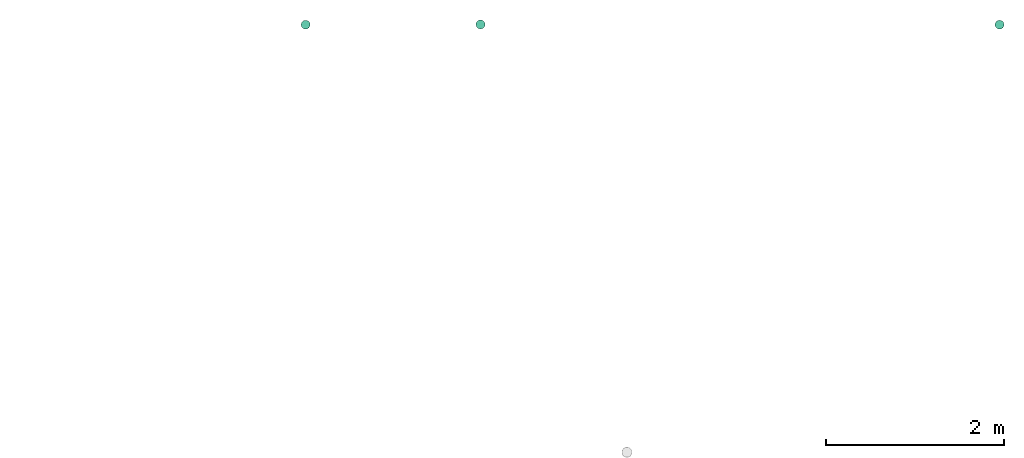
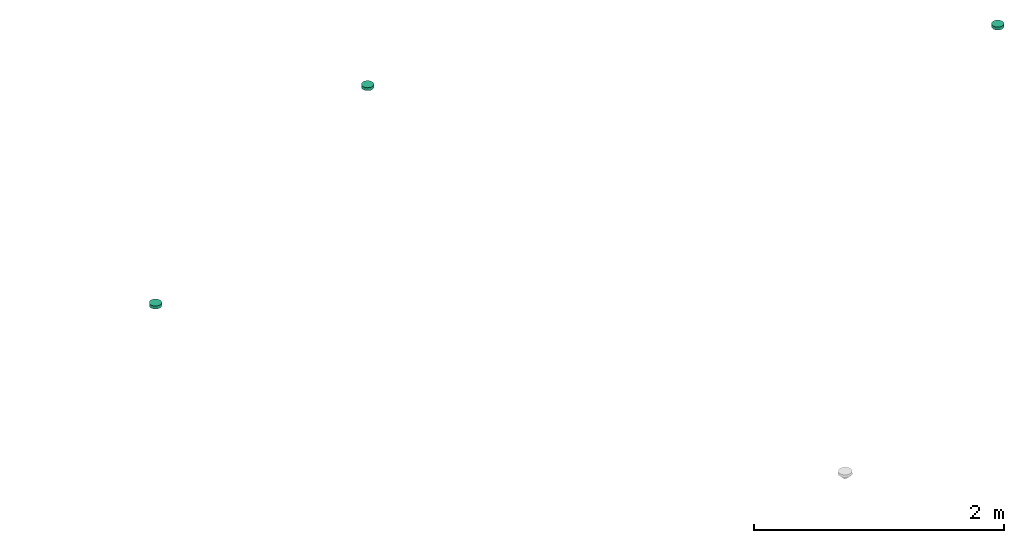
# One storey, part 1 of 4: 3 distribution control elements.
"""IFC2X3 building model written with IfcOpenShell, lengths in millimetres."""

from ifc_helpers import new_model, entity, si_unit, converted_unit, derived_unit, direction, frame, origin_with_axes, place, context, subcontext, project, spatial, open_shell, surface_model, source, transform, mapped, type_object, element, save


model = new_model("IFC2X3")

# Units and contexts
model_context = context("Model", 3, precision=0.01, world=frame((0.0, 4.29681676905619e-09, 0.0)), true_north=direction((4.01073788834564e-13, 1.0)))
plan_context = context("Plan", 3, precision=0.01, world=frame((0.0, 4.29681676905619e-09, 0.0)), true_north=direction((4.01073788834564e-13, 1.0)))
body_context = subcontext(model_context, "Body", "Model", "MODEL_VIEW")
ifc_project = project(units=[converted_unit("PLANEANGLEUNIT", "DEGREE", entity("IfcPositiveLengthMeasure", 0.0174532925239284), si_unit("PLANEANGLEUNIT", "RADIAN"), dimensions=[0, 0, 0, 0, 0, 0, 0]), si_unit("AREAUNIT", "SQUARE_METRE"), si_unit("LENGTHUNIT", "METRE", prefix="MILLI"), si_unit("MASSUNIT", "GRAM", prefix="KILO"), si_unit("POWERUNIT", "WATT"), si_unit("PRESSUREUNIT", "PASCAL", prefix="KILO"), si_unit("FORCEUNIT", "NEWTON", prefix="KILO"), si_unit("ELECTRICVOLTAGEUNIT", "VOLT"), si_unit("ELECTRICCURRENTUNIT", "AMPERE"), si_unit("THERMODYNAMICTEMPERATUREUNIT", "DEGREE_CELSIUS"), si_unit("TIMEUNIT", "SECOND"), si_unit("VOLUMEUNIT", "CUBIC_METRE"), derived_unit("LINEARVELOCITYUNIT", [(si_unit("LENGTHUNIT", "METRE"), 1), (si_unit("TIMEUNIT", "SECOND"), -1)]), derived_unit("VOLUMETRICFLOWRATEUNIT", [(si_unit("VOLUMEUNIT", "CUBIC_METRE"), 1), (si_unit("TIMEUNIT", "SECOND"), -1)]), derived_unit("THERMALTRANSMITTANCEUNIT", [(si_unit("POWERUNIT", "WATT"), 1), (si_unit("THERMODYNAMICTEMPERATUREUNIT", "KELVIN"), -1), (si_unit("AREAUNIT", "SQUARE_METRE"), -1)]), derived_unit("SOUNDPRESSUREUNIT", [(si_unit("PRESSUREUNIT", "PASCAL"), 1)])], contexts=[model_context, plan_context])

# Site, building, storey
site_placement = place(None, frame((0.0, -4.29681676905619e-09, 0.0), z_axis=(0.0, 0.0, 1.0), x_axis=(1.0, 0.0, 0.0)))
site = spatial("IfcSite", under=ifc_project, at=site_placement, Name="ENGM", CompositionType="ELEMENT")
building_placement = place(site_placement, frame((0.0, 4.29681676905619e-09, 0.0), z_axis=(0.0, 0.0, 1.0), x_axis=(1.0, 0.0, 0.0)))
building = spatial("IfcBuilding", under=site, at=building_placement, Name="TS", CompositionType="ELEMENT")
storey_placement = place(building_placement, frame((0.0, 0.0, 210900.0), z_axis=(0.0, 0.0, 1.0), x_axis=(1.0, 0.0, 0.0)))
storey = spatial("IfcBuildingStorey", under=building, at=storey_placement, Name="Nivå F", CompositionType="ELEMENT", Elevation=210900.0)

# Distribution control elements
alarm_type = type_object("IfcAlarmType", Name="Standard", PredefinedType="NOTDEFINED")
shared_shape = source(origin_with_axes(), body_context, "Body", "SurfaceModel", [
    surface_model("IfcShellBasedSurfaceModel", [(-25.0, 43.30127, -28.9), (-35.35534, 35.35534, -28.9), (-18.0, 31.17691, -28.9), (-25.45584, 25.45584, -28.9), (-9.31749, 34.77333, -28.9), (-12.94095, 48.29629, -28.9), (0.0, 36.0, -28.9), (0.0, 50.0, -28.9), (-34.77333, 9.31749, -28.9), (-43.30127, 25.0, -28.9), (-48.29629, 12.94095, -28.9), (-36.0, 0.0, -28.9), (-50.0, 0.0, -28.9), (-31.17691, 18.0, -28.9), (9.31749, 34.77333, -28.9), (12.94095, 48.29629, -28.9), (18.0, 31.17691, -28.9), (35.35534, 35.35534, -28.9), (25.0, 43.30127, -28.9), (25.45584, 25.45584, -28.9), (31.17691, 18.0, -28.9), (34.77333, 9.31749, -28.9), (43.30127, 25.0, -28.9), (48.29629, 12.94095, -28.9), (36.0, 0.0, -28.9), (50.0, 0.0, -28.9), (-34.77333, -9.31749, -28.9), (-48.29629, -12.94095, -28.9), (-31.17691, -18.0, -28.9), (-43.30127, -25.0, -28.9), (-25.45584, -25.45584, -28.9), (-35.35534, -35.35534, -28.9), (-18.0, -31.17691, -28.9), (-25.0, -43.30127, -28.9), (-9.31749, -34.77333, -28.9), (-12.94095, -48.29629, -28.9), (0.0, -36.0, -28.9), (0.0, -50.0, -28.9), (43.30127, -25.0, -28.9), (31.17691, -18.0, -28.9), (35.35534, -35.35534, -28.9), (34.77333, -9.31749, -28.9), (48.29629, -12.94095, -28.9), (25.45584, -25.45584, -28.9), (9.31749, -34.77333, -28.9), (12.94095, -48.29629, -28.9), (18.0, -31.17691, -28.9), (25.0, -43.30127, -28.9), (-25.0, -43.30127, -29.1), (-35.35534, -35.35534, -29.1), (-18.0, -31.17691, -29.1), (-25.45584, -25.45584, -29.1), (-9.31749, -34.77333, -29.1), (-12.94095, -48.29629, -29.1), (0.0, -36.0, -29.1), (0.0, -50.0, -29.1), (-34.77333, -9.31749, -29.1), (-43.30127, -25.0, -29.1), (-48.29629, -12.94095, -29.1), (-36.0, 0.0, -29.1), (-50.0, 0.0, -29.1), (-31.17691, -18.0, -29.1), (9.31749, -34.77333, -29.1), (12.94095, -48.29629, -29.1), (18.0, -31.17691, -29.1), (35.35534, -35.35534, -29.1), (25.0, -43.30127, -29.1), (25.45584, -25.45584, -29.1), (31.17691, -18.0, -29.1), (34.77333, -9.31749, -29.1), (43.30127, -25.0, -29.1), (48.29629, -12.94095, -29.1), (36.0, 0.0, -29.1), (50.0, 0.0, -29.1), (-34.77333, 9.31749, -29.1), (-48.29629, 12.94095, -29.1), (-31.17691, 18.0, -29.1), (-43.30127, 25.0, -29.1), (-25.45584, 25.45584, -29.1), (-35.35534, 35.35534, -29.1), (-18.0, 31.17691, -29.1), (-25.0, 43.30127, -29.1), (-9.31749, 34.77333, -29.1), (-12.94095, 48.29629, -29.1), (0.0, 36.0, -29.1), (0.0, 50.0, -29.1), (43.30127, 25.0, -29.1), (31.17691, 18.0, -29.1), (35.35534, 35.35534, -29.1), (34.77333, 9.31749, -29.1), (48.29629, 12.94095, -29.1), (25.45584, 25.45584, -29.1), (9.31749, 34.77333, -29.1), (12.94095, 48.29629, -29.1), (18.0, 31.17691, -29.1), (25.0, 43.30127, -29.1), (6.47048, -24.14815, -44.9), (12.5, -21.65064, -44.9), (17.67767, -17.67767, -44.9), (24.14815, -6.47048, -44.9), (-24.14815, -6.47048, -44.9), (21.65064, -12.5, -44.9), (-21.65064, 12.5, -44.9), (0.0, -25.0, -44.9), (-12.5, -21.65064, -44.9), (-6.47048, -24.14815, -44.9), (-17.67767, -17.67767, -44.9), (-21.65064, -12.5, -44.9), (25.0, 0.0, -44.9), (24.14815, 6.47048, -44.9), (21.65064, 12.5, -44.9), (17.67767, 17.67767, -44.9), (12.5, 21.65064, -44.9), (6.47048, 24.14815, -44.9), (0.0, 25.0, -44.9), (-25.0, 0.0, -44.9), (-24.14815, 6.47048, -44.9), (-12.5, 21.65064, -44.9), (-17.67767, 17.67767, -44.9), (-6.47048, 24.14815, -44.9), (0.0, 25.0, -45.1), (6.47048, 24.14815, -45.1), (12.5, 21.65064, -45.1), (-21.65064, 12.5, -45.1), (17.67767, 17.67767, -45.1), (21.65064, 12.5, -45.1), (24.14815, 6.47048, -45.1), (-12.5, 21.65064, -45.1), (-17.67767, 17.67767, -45.1), (-6.47048, 24.14815, -45.1), (-25.0, 0.0, -45.1), (-24.14815, 6.47048, -45.1), (-24.14815, -6.47048, -45.1), (24.14815, -6.47048, -45.1), (6.47048, -24.14815, -45.1), (21.65064, -12.5, -45.1), (17.67767, -17.67767, -45.1), (12.5, -21.65064, -45.1), (-12.5, -21.65064, -45.1), (-17.67767, -17.67767, -45.1), (-21.65064, -12.5, -45.1), (0.0, -25.0, -45.1), (-6.47048, -24.14815, -45.1), (25.0, 0.0, -45.1), (-1.46739, 34.60682, -29.0), (0.0, 34.8, -29.0), (0.0, 35.0, -29.0), (-34.60682, 1.46739, -29.0), (-35.0, 0.0, -29.0), (-34.8, 0.0, -29.0), (-17.5, 30.31089, -29.0), (-18.5742, 29.23669, -29.0), (-17.4, 30.13768, -29.0), (-24.60732, -24.60732, -29.0), (-18.5742, -29.23669, -29.0), (-29.23669, -18.5742, -29.0), (34.8, 0.0, -29.0), (34.60682, -1.46739, -29.0), (35.0, 0.0, -29.0), (17.4, 30.13768, -29.0), (17.5, 30.31089, -29.0), (16.03261, 30.70407, -29.0), (30.13768, 17.4, -29.0), (30.31089, 17.5, -29.0), (29.23669, 18.5742, -29.0), (34.60682, 1.46739, -29.0), (33.61422, -9.0069, -29.0), (30.70407, -16.03261, -29.0), (-33.61422, -9.0069, -29.0), (-30.70407, -16.03261, -29.0), (-34.60682, -1.46739, -29.0), (-30.13768, -17.4, -29.0), (-30.31089, -17.5, -29.0), (-17.5, -30.31089, -29.0), (-17.4, -30.13768, -29.0), (-1.46739, -34.60682, -29.0), (0.0, -35.0, -29.0), (0.0, -34.8, -29.0), (-16.03261, -30.70407, -29.0), (-9.0069, -33.61422, -29.0), (1.46739, -34.60682, -29.0), (30.13768, -17.4, -29.0), (29.23669, -18.5742, -29.0), (30.31089, -17.5, -29.0), (24.60732, -24.60732, -29.0), (18.5742, -29.23669, -29.0), (9.0069, -33.61422, -29.0), (16.03261, -30.70407, -29.0), (-30.13768, 17.4, -29.0), (-30.31089, 17.5, -29.0), (-30.70407, 16.03261, -29.0), (17.4, -30.13768, -29.0), (17.5, -30.31089, -29.0), (-33.61422, 9.0069, -29.0), (-29.23669, 18.5742, -29.0), (-24.60732, 24.60732, -29.0), (-16.03261, 30.70407, -29.0), (-9.0069, 33.61422, -29.0), (1.46739, 34.60682, -29.0), (9.0069, 33.61422, -29.0), (18.5742, 29.23669, -29.0), (24.60732, 24.60732, -29.0), (30.70407, 16.03261, -29.0), (33.61422, 9.0069, -29.0), (23.00389, 18.55381, -38.25), (14.9, 25.80756, -38.25), (21.07178, 21.07178, -38.25), (29.66376, 1.03484, -38.25), (30.0, 0.0, -38.25), (29.8, 0.0, -38.25), (24.27051, 17.63356, -38.25), (24.68215, 16.36666, -38.25), (10.52665, 27.61906, -38.25), (28.78459, 7.71281, -38.25), (-10.52665, 27.61906, -38.25), (-23.00389, 18.55381, -38.25), (-14.9, 25.80756, -38.25), (8.32335, 28.5317, -38.25), (0.0, 29.8, -38.25), (7.71281, 28.78459, -38.25), (-8.32335, 28.5317, -38.25), (-24.68215, 16.36666, -38.25), (-28.78459, 7.71281, -38.25), (-25.80756, 14.9, -38.25), (-9.27051, 28.5317, -38.25), (-29.66376, 1.03484, -38.25), (-29.8, 0.0, -38.25), (-30.0, 0.0, -38.25), (-28.78459, -7.71281, -38.25), (-24.68215, -16.36666, -38.25), (-25.80756, -14.9, -38.25), (29.66376, -1.03484, -38.25), (-7.71281, 28.78459, -38.25), (25.80756, 14.9, -38.25), (14.9, -25.80756, -38.25), (10.52665, -27.61906, -38.25), (23.00389, -18.55381, -38.25), (28.78459, -7.71281, -38.25), (24.68215, -16.36666, -38.25), (0.0, -29.8, -38.25), (-7.71281, -28.78459, -38.25), (-8.32335, -28.5317, -38.25), (8.32335, -28.5317, -38.25), (9.27051, 28.5317, -38.25), (-29.66376, -1.03484, -38.25), (21.07178, -21.07178, -38.25), (-23.00389, -18.55381, -38.25), (-24.27051, -17.63356, -38.25), (-9.27051, -28.5317, -38.25), (-10.52665, -27.61906, -38.25), (-21.07178, -21.07178, -38.25), (-14.9, -25.80756, -38.25), (9.27051, -28.5317, -38.25), (7.71281, -28.78459, -38.25), (24.27051, -17.63356, -38.25), (25.80756, -14.9, -38.25), (-21.07178, 21.07178, -38.25), (-24.27051, 17.63356, -38.25), (33.28589, -6.39713, -29.0), (27.13526, -8.81678, -38.25), (-16.77051, -23.08263, -38.25), (-23.90544, -23.90544, -29.0), (-27.13526, -8.81678, -38.25), (-33.28589, -6.39713, -29.0), (16.77051, -23.08263, -38.25), (8.75, -32.65544, -29.0), (0.0, -28.5317, -38.25), (23.90544, -23.90544, -29.0), (-8.75, -32.65544, -29.0), (-33.28589, 6.39713, -29.0), (-27.13526, 8.81678, -38.25), (16.77051, 23.08263, -38.25), (23.90544, 23.90544, -29.0), (27.13526, 8.81678, -38.25), (33.28589, 6.39713, -29.0), (-16.77051, 23.08263, -38.25), (-8.75, 32.65544, -29.0), (0.0, 28.5317, -38.25), (-23.90544, 23.90544, -29.0), (8.75, 32.65544, -29.0), (12.4, 21.47743, -45.0), (17.53625, 17.53625, -45.0), (19.07577, 15.5299, -45.0), (20.22543, 14.69463, -45.0), (20.59905, 13.54472, -45.0), (24.66376, 1.03484, -45.0), (25.0, 0.0, -45.0), (24.8, 0.0, -45.0), (8.88673, 22.93267, -45.0), (23.95496, 6.41871, -45.0), (-8.88673, 22.93267, -45.0), (-19.07577, 15.5299, -45.0), (-12.4, 21.47743, -45.0), (6.84976, 23.77641, -45.0), (0.0, 24.8, -45.0), (6.41871, 23.95496, -45.0), (-7.72542, 23.77641, -45.0), (-6.84976, 23.77641, -45.0), (-21.47743, 12.4, -45.0), (-20.59905, 13.54472, -45.0), (-23.95496, 6.41871, -45.0), (-25.0, 0.0, -45.0), (-24.66376, 1.03484, -45.0), (-24.8, 0.0, -45.0), (-23.95496, -6.41871, -45.0), (-20.59905, -13.54472, -45.0), (-21.47743, -12.4, -45.0), (-6.41871, 23.95496, -45.0), (24.66376, -1.03484, -45.0), (21.47743, 12.4, -45.0), (12.4, -21.47743, -45.0), (8.88673, -22.93267, -45.0), (19.07577, -15.5299, -45.0), (23.95496, -6.41871, -45.0), (20.59905, -13.54472, -45.0), (0.0, -24.8, -45.0), (-6.41871, -23.95496, -45.0), (-6.84976, -23.77641, -45.0), (7.72542, -23.77641, -45.0), (6.84976, -23.77641, -45.0), (7.72542, 23.77641, -45.0), (-24.66376, -1.03484, -45.0), (17.53625, -17.53625, -45.0), (-20.22543, -14.69463, -45.0), (-19.07577, -15.5299, -45.0), (-8.88673, -22.93267, -45.0), (-7.72542, -23.77641, -45.0), (-17.53625, -17.53625, -45.0), (-12.4, -21.47743, -45.0), (6.41871, -23.95496, -45.0), (20.22543, -14.69463, -45.0), (21.47743, -12.4, -45.0), (-17.53625, 17.53625, -45.0), (-20.22543, 14.69463, -45.0), (-22.61271, -7.34732, -45.0), (-13.97542, -19.23552, -45.0), (0.0, -23.77641, -45.0), (21.83768, -9.73262, -45.0), (13.97542, -19.23552, -45.0), (23.41884, -4.86631, -45.0), (22.61271, 7.34732, -45.0), (13.97542, 19.23552, -45.0), (0.0, 23.77641, -45.0), (-21.83768, 9.73262, -45.0), (-13.97542, 19.23552, -45.0), (-23.41884, 4.86631, -45.0), (12.94095, -48.29629, 0.0), (25.0, -43.30127, 0.0), (35.35534, -35.35534, 0.0), (48.29629, -12.94095, 0.0), (-48.29629, -12.94095, 0.0), (43.30127, -25.0, 0.0), (-43.30127, 25.0, 0.0), (0.0, -50.0, 0.0), (-25.0, -43.30127, 0.0), (-12.94095, -48.29629, 0.0), (-35.35534, -35.35534, 0.0), (-43.30127, -25.0, 0.0), (50.0, 0.0, 0.0), (48.29629, 12.94095, 0.0), (43.30127, 25.0, 0.0), (35.35534, 35.35534, 0.0), (25.0, 43.30127, 0.0), (12.94095, 48.29629, 0.0), (0.0, 50.0, 0.0), (-50.0, 0.0, 0.0), (-48.29629, 12.94095, 0.0), (-25.0, 43.30127, 0.0), (-35.35534, 35.35534, 0.0), (-12.94095, 48.29629, 0.0), (0.0, 50.0, -29.0), (12.94095, 48.29629, -29.0), (25.0, 43.30127, -29.0), (-43.30127, 25.0, -29.0), (35.35534, 35.35534, -29.0), (43.30127, 25.0, -29.0), (48.29629, 12.94095, -29.0), (-25.0, 43.30127, -29.0), (-35.35534, 35.35534, -29.0), (-12.94095, 48.29629, -29.0), (-50.0, 0.0, -29.0), (-48.29629, 12.94095, -29.0), (-48.29629, -12.94095, -29.0), (48.29629, -12.94095, -29.0), (12.94095, -48.29629, -29.0), (43.30127, -25.0, -29.0), (35.35534, -35.35534, -29.0), (25.0, -43.30127, -29.0), (-25.0, -43.30127, -29.0), (-35.35534, -35.35534, -29.0), (-43.30127, -25.0, -29.0), (0.0, -50.0, -29.0), (-12.94095, -48.29629, -29.0), (50.0, 0.0, -29.0)], [open_shell([[[0, 1, 2]], [[2, 1, 3]], [[0, 2, 4]], [[5, 4, 6]], [[4, 5, 0]], [[5, 6, 7]], [[8, 9, 10]], [[11, 10, 12]], [[8, 10, 11]], [[13, 3, 9]], [[8, 13, 9]], [[9, 3, 1]], [[7, 14, 15]], [[14, 7, 6]], [[15, 14, 16]], [[17, 18, 19]], [[16, 18, 15]], [[19, 18, 16]], [[20, 21, 22]], [[20, 22, 17]], [[21, 23, 22]], [[23, 21, 24]], [[23, 24, 25]], [[20, 17, 19]], [[26, 12, 27]], [[28, 27, 29]], [[28, 26, 27]], [[30, 28, 29]], [[29, 31, 30]], [[32, 31, 33]], [[31, 32, 30]], [[32, 33, 34]], [[34, 35, 36]], [[35, 34, 33]], [[36, 35, 37]], [[38, 39, 40]], [[41, 39, 42]], [[41, 42, 25]], [[42, 39, 38]], [[39, 43, 40]], [[25, 24, 41]], [[44, 37, 45]], [[37, 44, 36]], [[44, 45, 46]], [[47, 40, 43]], [[47, 46, 45]], [[47, 43, 46]], [[26, 11, 12]], [[48, 49, 50]], [[50, 49, 51]], [[48, 50, 52]], [[53, 52, 54]], [[52, 53, 48]], [[53, 54, 55]], [[56, 57, 58]], [[59, 58, 60]], [[56, 58, 59]], [[61, 51, 57]], [[56, 61, 57]], [[57, 51, 49]], [[55, 62, 63]], [[62, 55, 54]], [[63, 62, 64]], [[65, 66, 67]], [[64, 66, 63]], [[67, 66, 64]], [[68, 69, 70]], [[68, 70, 65]], [[69, 71, 70]], [[71, 69, 72]], [[71, 72, 73]], [[68, 65, 67]], [[74, 60, 75]], [[76, 75, 77]], [[76, 74, 75]], [[78, 76, 77]], [[77, 79, 78]], [[80, 79, 81]], [[79, 80, 78]], [[80, 81, 82]], [[82, 83, 84]], [[83, 82, 81]], [[84, 83, 85]], [[86, 87, 88]], [[89, 87, 90]], [[89, 90, 73]], [[90, 87, 86]], [[87, 91, 88]], [[73, 72, 89]], [[92, 85, 93]], [[85, 92, 84]], [[92, 93, 94]], [[95, 88, 91]], [[95, 94, 93]], [[95, 91, 94]], [[74, 59, 60]], [[11, 59, 8]], [[8, 74, 13]], [[2, 3, 78]], [[76, 3, 13]], [[4, 2, 80]], [[74, 76, 13]], [[8, 59, 74]], [[84, 6, 82]], [[4, 80, 82]], [[80, 2, 78]], [[3, 76, 78]], [[4, 82, 6]], [[14, 92, 16]], [[16, 94, 19]], [[21, 20, 87]], [[91, 20, 19]], [[24, 21, 89]], [[92, 94, 16]], [[14, 84, 92]], [[21, 87, 89]], [[87, 20, 91]], [[19, 94, 91]], [[24, 89, 72]], [[6, 84, 14]], [[24, 72, 41]], [[41, 69, 39]], [[46, 43, 67]], [[68, 43, 39]], [[44, 46, 64]], [[69, 68, 39]], [[41, 72, 69]], [[54, 36, 62]], [[44, 64, 62]], [[64, 46, 67]], [[43, 68, 67]], [[44, 62, 36]], [[34, 52, 32]], [[32, 50, 30]], [[26, 28, 61]], [[51, 28, 30]], [[11, 26, 56]], [[52, 50, 32]], [[34, 54, 52]], [[26, 61, 56]], [[61, 28, 51]], [[30, 50, 51]], [[11, 56, 59]], [[36, 54, 34]], [[58, 27, 60]], [[57, 29, 58]], [[33, 49, 48]], [[57, 49, 31]], [[35, 48, 53]], [[58, 29, 27]], [[27, 12, 60]], [[35, 33, 48]], [[31, 49, 33]], [[31, 29, 57]], [[37, 35, 53]], [[53, 55, 37]], [[63, 45, 55]], [[66, 47, 63]], [[38, 65, 70]], [[66, 65, 40]], [[42, 70, 71]], [[66, 40, 47]], [[47, 45, 63]], [[25, 42, 71]], [[38, 70, 42]], [[38, 40, 65]], [[73, 25, 71]], [[55, 45, 37]], [[90, 23, 73]], [[86, 22, 90]], [[18, 88, 95]], [[86, 88, 17]], [[15, 95, 93]], [[90, 22, 23]], [[23, 25, 73]], [[15, 18, 95]], [[17, 88, 18]], [[17, 22, 86]], [[7, 15, 93]], [[93, 85, 7]], [[83, 5, 85]], [[81, 0, 83]], [[9, 79, 77]], [[81, 79, 1]], [[10, 77, 75]], [[81, 1, 0]], [[0, 5, 83]], [[12, 10, 75]], [[9, 77, 10]], [[9, 1, 79]], [[60, 12, 75]], [[85, 5, 7]], [[96, 97, 98]], [[96, 98, 99]], [[96, 99, 100]], [[99, 98, 101]], [[102, 100, 99]], [[103, 104, 105]], [[103, 96, 104]], [[106, 100, 107]], [[106, 104, 96]], [[100, 106, 96]], [[99, 108, 102]], [[109, 110, 111]], [[109, 111, 112]], [[112, 113, 114]], [[109, 112, 102]], [[102, 112, 114]], [[115, 102, 116]], [[100, 102, 115]], [[102, 117, 118]], [[117, 102, 119]], [[114, 119, 102]], [[102, 108, 109]], [[120, 121, 122]], [[123, 120, 122]], [[124, 125, 126]], [[124, 126, 122]], [[123, 122, 126]], [[127, 123, 128]], [[123, 127, 129]], [[123, 130, 131]], [[123, 129, 120]], [[123, 132, 130]], [[123, 126, 133]], [[132, 123, 133]], [[134, 133, 135]], [[136, 137, 134]], [[136, 134, 135]], [[138, 133, 134]], [[132, 139, 140]], [[132, 133, 139]], [[138, 141, 142]], [[139, 133, 138]], [[134, 141, 138]], [[133, 126, 143]], [[132, 100, 130]], [[140, 107, 132]], [[104, 139, 138]], [[140, 139, 106]], [[105, 138, 142]], [[132, 107, 100]], [[100, 115, 130]], [[105, 104, 138]], [[106, 139, 104]], [[106, 107, 140]], [[103, 105, 142]], [[142, 141, 103]], [[134, 96, 141]], [[137, 97, 134]], [[101, 136, 135]], [[137, 136, 98]], [[99, 135, 133]], [[137, 98, 97]], [[97, 96, 134]], [[108, 99, 133]], [[101, 135, 99]], [[101, 98, 136]], [[143, 108, 133]], [[141, 96, 103]], [[126, 109, 143]], [[125, 110, 126]], [[112, 124, 122]], [[125, 124, 111]], [[113, 122, 121]], [[126, 110, 109]], [[109, 108, 143]], [[113, 112, 122]], [[111, 124, 112]], [[111, 110, 125]], [[114, 113, 121]], [[121, 120, 114]], [[129, 119, 120]], [[127, 117, 129]], [[102, 128, 123]], [[127, 128, 118]], [[116, 123, 131]], [[127, 118, 117]], [[117, 119, 129]], [[115, 116, 131]], [[102, 123, 116]], [[102, 118, 128]], [[130, 115, 131]], [[120, 119, 114]], [[144, 145, 146]], [[147, 148, 149]], [[150, 151, 152]], [[153, 154, 155]], [[156, 157, 158]], [[159, 160, 161]], [[162, 163, 164]], [[156, 158, 165]], [[166, 157, 167]], [[168, 169, 170]], [[170, 149, 148]], [[171, 169, 172]], [[173, 174, 154]], [[175, 176, 177]], [[174, 173, 178]], [[155, 171, 172]], [[179, 175, 178]], [[180, 177, 176]], [[181, 182, 183]], [[181, 183, 167]], [[184, 182, 185]], [[186, 187, 180]], [[188, 189, 190]], [[191, 192, 185]], [[191, 187, 192]], [[193, 147, 190]], [[188, 194, 189]], [[195, 194, 151]], [[152, 196, 150]], [[197, 196, 144]], [[145, 198, 146]], [[199, 198, 161]], [[159, 200, 160]], [[201, 200, 164]], [[162, 202, 163]], [[203, 202, 165]], [[204, 205, 206]], [[207, 208, 209]], [[204, 210, 211]], [[205, 204, 212]], [[213, 207, 211]], [[214, 215, 216]], [[217, 218, 219]], [[218, 217, 220]], [[221, 222, 223]], [[220, 214, 224]], [[225, 226, 227]], [[228, 229, 230]], [[209, 208, 231]], [[218, 220, 232]], [[213, 211, 233]], [[234, 235, 236]], [[237, 238, 231]], [[239, 240, 241]], [[241, 242, 239]], [[243, 212, 217]], [[227, 226, 244]], [[234, 236, 245]], [[229, 246, 247]], [[241, 248, 249]], [[250, 246, 251]], [[228, 244, 229]], [[235, 252, 242]], [[239, 242, 253]], [[236, 238, 254]], [[238, 237, 255]], [[251, 246, 249]], [[216, 215, 256]], [[215, 221, 257]], [[222, 221, 225]], [[208, 158, 258]], [[183, 259, 258]], [[260, 261, 247]], [[172, 262, 247]], [[263, 227, 262]], [[192, 252, 264]], [[260, 248, 173]], [[261, 260, 173]], [[252, 265, 266]], [[227, 263, 148]], [[172, 263, 262]], [[258, 259, 208]], [[254, 267, 264]], [[268, 173, 248]], [[252, 192, 265]], [[192, 264, 267]], [[267, 254, 183]], [[259, 183, 254]], [[268, 266, 176]], [[265, 176, 266]], [[248, 266, 268]], [[172, 247, 261]], [[227, 148, 269]], [[189, 270, 269]], [[271, 272, 210]], [[163, 273, 210]], [[274, 208, 273]], [[150, 224, 275]], [[271, 243, 160]], [[272, 271, 160]], [[224, 276, 277]], [[208, 274, 158]], [[163, 274, 273]], [[269, 270, 227]], [[257, 278, 275]], [[279, 160, 243]], [[224, 150, 276]], [[150, 275, 278]], [[278, 257, 189]], [[270, 189, 257]], [[279, 277, 146]], [[276, 146, 277]], [[243, 277, 279]], [[163, 210, 272]], [[171, 230, 228]], [[168, 228, 226]], [[179, 240, 251]], [[174, 251, 250]], [[153, 250, 230]], [[168, 171, 228]], [[226, 149, 168]], [[251, 174, 179]], [[174, 250, 153]], [[230, 171, 153]], [[240, 179, 177]], [[177, 239, 240]], [[184, 245, 234]], [[191, 234, 253]], [[156, 209, 237]], [[166, 237, 255]], [[181, 255, 245]], [[239, 186, 253]], [[186, 191, 253]], [[177, 186, 239]], [[184, 181, 245]], [[191, 184, 234]], [[181, 166, 255]], [[166, 156, 237]], [[162, 233, 213]], [[203, 213, 209]], [[199, 219, 205]], [[159, 205, 206]], [[201, 206, 233]], [[203, 162, 213]], [[209, 156, 203]], [[205, 159, 199]], [[159, 206, 201]], [[233, 162, 201]], [[219, 199, 145]], [[145, 218, 219]], [[195, 256, 216]], [[152, 216, 232]], [[149, 226, 222]], [[193, 222, 223]], [[188, 223, 256]], [[218, 197, 232]], [[197, 152, 232]], [[145, 197, 218]], [[195, 188, 256]], [[152, 195, 216]], [[188, 193, 223]], [[193, 149, 222]], [[215, 216, 256]], [[221, 222, 225]], [[225, 227, 226]], [[257, 221, 215]], [[216, 215, 214]], [[212, 204, 205]], [[220, 218, 232]], [[218, 220, 217]], [[217, 212, 243]], [[233, 211, 213]], [[208, 207, 209]], [[237, 238, 255]], [[252, 235, 242]], [[218, 217, 219]], [[227, 244, 226]], [[222, 221, 223]], [[228, 229, 244]], [[239, 253, 242]], [[246, 251, 249]], [[249, 248, 241]], [[231, 238, 237]], [[208, 209, 231]], [[251, 246, 250]], [[254, 238, 236]], [[236, 234, 245]], [[214, 220, 224]], [[242, 241, 239]], [[239, 241, 240]], [[246, 229, 247]], [[230, 229, 228]], [[234, 236, 235]], [[205, 204, 206]], [[204, 211, 210]], [[213, 211, 207]], [[280, 281, 282]], [[282, 283, 284]], [[285, 286, 287]], [[280, 282, 288]], [[289, 285, 284]], [[290, 291, 292]], [[293, 294, 295]], [[290, 296, 297]], [[294, 293, 297]], [[298, 299, 300]], [[301, 302, 303]], [[304, 305, 306]], [[294, 297, 307]], [[308, 287, 286]], [[289, 284, 309]], [[310, 311, 312]], [[313, 314, 308]], [[315, 316, 317]], [[311, 318, 319]], [[293, 320, 288]], [[301, 303, 321]], [[310, 312, 322]], [[323, 305, 324]], [[325, 317, 326]], [[327, 324, 328]], [[304, 321, 305]], [[317, 319, 315]], [[315, 319, 329]], [[312, 314, 330]], [[331, 314, 313]], [[328, 324, 325]], [[292, 291, 332]], [[291, 299, 333]], [[300, 299, 302]], [[262, 301, 334]], [[334, 323, 247]], [[248, 335, 326]], [[301, 262, 227]], [[334, 247, 262]], [[260, 323, 335]], [[266, 248, 326]], [[336, 252, 266]], [[252, 336, 318]], [[323, 260, 247]], [[248, 260, 335]], [[254, 337, 259]], [[318, 264, 252]], [[338, 254, 264]], [[339, 286, 208]], [[264, 318, 338]], [[259, 339, 208]], [[338, 330, 254]], [[266, 326, 336]], [[259, 337, 339]], [[337, 254, 330]], [[273, 286, 340]], [[340, 283, 210]], [[243, 341, 320]], [[286, 273, 208]], [[340, 210, 273]], [[271, 283, 341]], [[277, 243, 320]], [[342, 224, 277]], [[224, 342, 296]], [[283, 271, 210]], [[243, 271, 341]], [[257, 343, 270]], [[296, 275, 224]], [[344, 257, 275]], [[345, 301, 227]], [[275, 296, 344]], [[270, 345, 227]], [[344, 333, 257]], [[277, 320, 342]], [[270, 343, 345]], [[343, 257, 333]], [[230, 306, 304]], [[228, 304, 303]], [[240, 316, 328]], [[251, 328, 327]], [[250, 327, 306]], [[228, 230, 304]], [[303, 226, 228]], [[328, 251, 240]], [[251, 327, 250]], [[306, 230, 250]], [[316, 240, 239]], [[239, 315, 316]], [[245, 322, 310]], [[234, 310, 329]], [[209, 287, 313]], [[237, 313, 331]], [[255, 331, 322]], [[315, 253, 329]], [[253, 234, 329]], [[239, 253, 315]], [[255, 322, 245]], [[234, 245, 310]], [[331, 255, 237]], [[237, 209, 313]], [[233, 309, 289]], [[213, 289, 287]], [[219, 295, 280]], [[205, 280, 281]], [[206, 281, 309]], [[213, 233, 289]], [[287, 209, 213]], [[280, 205, 219]], [[205, 281, 206]], [[309, 233, 206]], [[295, 219, 218]], [[218, 294, 295]], [[256, 332, 292]], [[216, 292, 307]], [[226, 303, 300]], [[222, 300, 298]], [[223, 298, 332]], [[294, 232, 307]], [[232, 216, 307]], [[218, 232, 294]], [[223, 332, 256]], [[216, 256, 292]], [[298, 223, 222]], [[222, 226, 300]], [[346, 347, 348]], [[346, 348, 349]], [[346, 349, 350]], [[349, 348, 351]], [[352, 350, 349]], [[353, 354, 355]], [[353, 346, 354]], [[356, 350, 357]], [[356, 354, 346]], [[350, 356, 346]], [[349, 358, 352]], [[359, 360, 361]], [[359, 361, 362]], [[362, 363, 364]], [[359, 362, 352]], [[352, 362, 364]], [[365, 352, 366]], [[350, 352, 365]], [[352, 367, 368]], [[367, 352, 369]], [[364, 369, 352]], [[352, 358, 359]], [[370, 371, 372]], [[373, 370, 372]], [[374, 375, 376]], [[374, 376, 372]], [[373, 372, 376]], [[377, 373, 378]], [[373, 377, 379]], [[373, 380, 381]], [[373, 379, 370]], [[373, 382, 380]], [[373, 376, 383]], [[382, 373, 383]], [[384, 383, 385]], [[386, 387, 384]], [[386, 384, 385]], [[388, 383, 384]], [[382, 389, 390]], [[382, 383, 389]], [[388, 391, 392]], [[389, 383, 388]], [[384, 391, 388]], [[383, 376, 393]], [[382, 350, 380]], [[390, 357, 382]], [[354, 389, 388]], [[390, 389, 356]], [[355, 388, 392]], [[382, 357, 350]], [[350, 365, 380]], [[355, 354, 388]], [[356, 389, 354]], [[356, 357, 390]], [[353, 355, 392]], [[392, 391, 353]], [[384, 346, 391]], [[387, 347, 384]], [[351, 386, 385]], [[387, 386, 348]], [[349, 385, 383]], [[387, 348, 347]], [[347, 346, 384]], [[358, 349, 383]], [[351, 385, 349]], [[351, 348, 386]], [[393, 358, 383]], [[391, 346, 353]], [[376, 359, 393]], [[375, 360, 376]], [[362, 374, 372]], [[375, 374, 361]], [[363, 372, 371]], [[376, 360, 359]], [[359, 358, 393]], [[363, 362, 372]], [[361, 374, 362]], [[361, 360, 375]], [[364, 363, 371]], [[371, 370, 364]], [[369, 370, 379]], [[367, 379, 377]], [[352, 373, 381]], [[366, 381, 380]], [[379, 367, 369]], [[367, 377, 378]], [[367, 378, 368]], [[368, 378, 352]], [[352, 378, 373]], [[352, 381, 366]], [[380, 365, 366]], [[370, 369, 364]]])]),
])
for number, where, z_axis, x_axis, name in (
    (1, (721062.83614, 440395.15867, 4495.0), (0.0, 0.0, 1.0), (1.0, 0.0, 0.0), "Standard"),
    (2, (719100.20127, 440392.51319, 3050.0), (0.0, 0.0, 1.0), (1.0, 0.0, 0.0), "Standard"),
    (3, (726886.05556, 440392.69189, 3050.0), (0.0, 0.0, 1.0), (1.0, 0.0, 0.0), "Standard"),
):
    element("IfcDistributionControlElement", number, at=place(storey_placement, frame(where, z_axis=z_axis, x_axis=x_axis)), inside=storey, type_object=alarm_type, Name=name, context=body_context, shape_type="MappedRepresentation", body=[
        mapped(shared_shape, transform((0.0, 0.0, 0.0), scale=1.0)),
    ])

save(model, "model.ifc")
